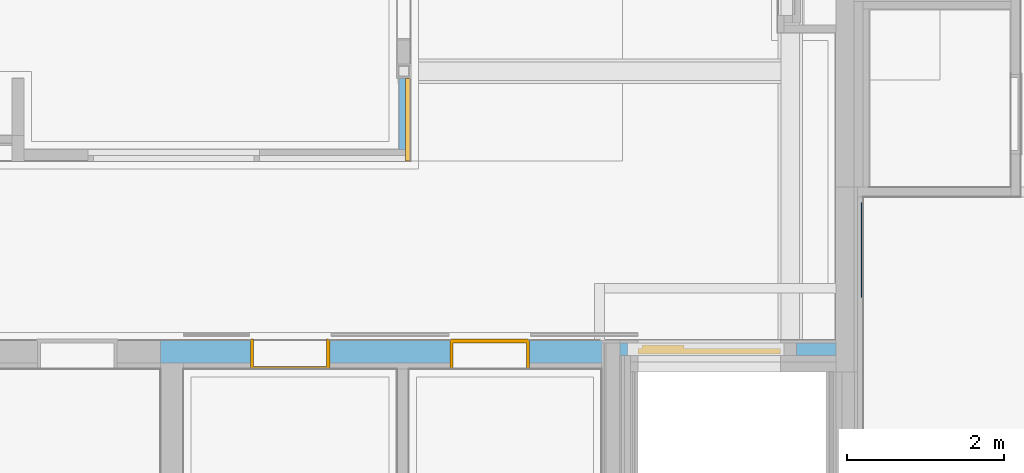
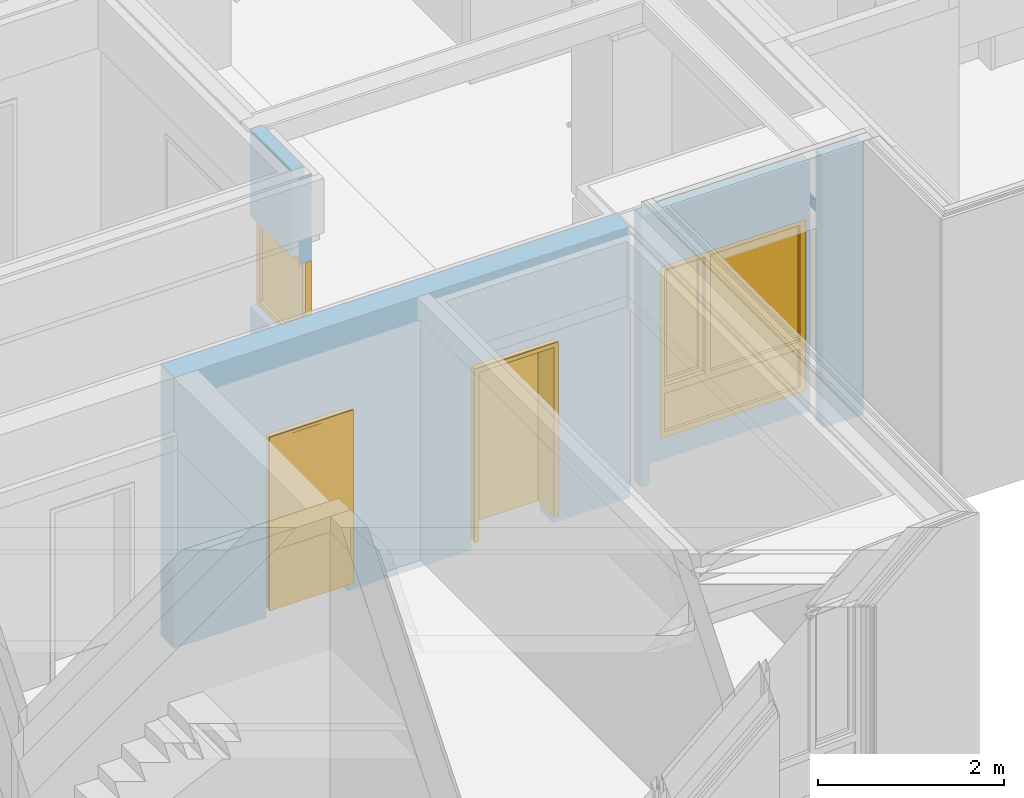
# One storey, part 112 of 222: 2 doors, 2 windows, 1 wall, 4 openings, plus 3 elements that do not belong to this part.
"""IFC4 building model written with IfcOpenShell, lengths in metres."""

import ifcopenshell
import ifcopenshell.guid

model = None  # the IFC model being written
_history = None  # IfcOwnerHistory: only IFC2X3 demands one
_inside = {}  # id of a spatial element -> (the spatial element, [elements in it])
_under = {}  # id of a project, library or spatial element -> (it, [spatial elements below it])
_declared = {}  # id of a project -> (the project, [libraries it declares])
_typed = {}  # id of a type object -> (the type object, [elements of that type])
_made_of = {}  # id of a material, layer set ... -> (it, [elements and type objects made of it])


def new_model(schema):
    """Start an empty IFC model of exactly this schema.

    Asked for "IFC4X3", IfcOpenShell would pick the latest addendum, in which some entities
    have other attributes; the version numbers below select the first issue.
    IFC2X3 requires an IfcOwnerHistory on every rooted entity: one is made here for all.
    """
    global model, _history
    if schema == "IFC4X3":
        model = ifcopenshell.file(schema_version=(4, 3, 0, 0))
    else:
        model = ifcopenshell.file(schema=schema)
    _inside.clear()
    _under.clear()
    _declared.clear()
    _typed.clear()
    _made_of.clear()
    _history = None
    if model.schema == "IFC2X3":
        org = make("IfcOrganization", Name="unknown")
        user = make(
            "IfcPersonAndOrganization",
            ThePerson=make("IfcPerson", FamilyName="unknown"),
            TheOrganization=org,
        )
        app = make(
            "IfcApplication",
            ApplicationDeveloper=org,
            Version="unknown",
            ApplicationFullName="unknown",
            ApplicationIdentifier="unknown",
        )
        _history = make(
            "IfcOwnerHistory",
            OwningUser=user,
            OwningApplication=app,
            ChangeAction="ADDED",
            CreationDate=0,
        )
    return model


def make(cls, **values):
    """One entity of the class cls with the attributes given. An attribute that is None is left unset."""
    return model.create_entity(
        cls, **{name: value for name, value in values.items() if value is not None}
    )


def entity(cls, *values):
    """Any entity or typed value of the class cls, its attributes in the order of the schema. None: left unset."""
    e = model.create_entity(cls)
    for i, value in enumerate(values):
        if value is not None:
            e[i] = value
    return e


def rooted(cls, **values):
    """An entity with a GlobalId (a new one), such as an element, a storey or a relation."""
    return make(cls, GlobalId=ifcopenshell.guid.new(), OwnerHistory=_history, **values)


def si_unit(unit_type, name, prefix=None):
    """IfcSIUnit, for example si_unit("LENGTHUNIT", "METRE", prefix="MILLI")."""
    return make("IfcSIUnit", UnitType=unit_type, Prefix=prefix, Name=name)


def converted_unit(unit_type, name, factor, base, dimensions=None, offset=None):
    """IfcConversionBasedUnit, such as the inch: factor (a typed value) times the base unit."""
    return make(
        "IfcConversionBasedUnit"
        if offset is None
        else "IfcConversionBasedUnitWithOffset",
        ConversionOffset=offset,
        Dimensions=None
        if dimensions is None
        else entity("IfcDimensionalExponents", *dimensions),
        UnitType=unit_type,
        Name=name,
        ConversionFactor=make(
            "IfcMeasureWithUnit", ValueComponent=factor, UnitComponent=base
        ),
    )


def derived_unit(unit_type, elements):
    """IfcDerivedUnit: a product of units, each with its exponent."""
    return make(
        "IfcDerivedUnit",
        Elements=[
            make("IfcDerivedUnitElement", Unit=unit, Exponent=power)
            for unit, power in elements
        ],
        UnitType=unit_type,
    )


def assignment(units):
    """IfcUnitAssignment: the units of a project."""
    return None if units is None else make("IfcUnitAssignment", Units=units)


def point(xyz):
    """IfcCartesianPoint."""
    return None if xyz is None else make("IfcCartesianPoint", Coordinates=xyz)


def direction(xyz):
    """IfcDirection."""
    return None if xyz is None else make("IfcDirection", DirectionRatios=xyz)


def frame(location, z_axis=None, x_axis=None):
    """IfcAxis2Placement3D, a coordinate frame: its origin and axes. An axis left out is left unset."""
    return make(
        "IfcAxis2Placement3D",
        Location=point(location),
        Axis=direction(z_axis),
        RefDirection=direction(x_axis),
    )


def frame_2d(location, x_axis=None):
    """IfcAxis2Placement2D, a coordinate frame in the plane: its origin and x axis."""
    return make(
        "IfcAxis2Placement2D", Location=point(location), RefDirection=direction(x_axis)
    )


def origin():
    """The frame at (0, 0, 0) with its axes left unset."""
    return frame((0.0, 0.0, 0.0))


def origin_with_axes():
    """The frame at (0, 0, 0) with the z axis (0, 0, 1) and the x axis (1, 0, 0) written out."""
    return frame((0.0, 0.0, 0.0), z_axis=(0.0, 0.0, 1.0), x_axis=(1.0, 0.0, 0.0))


def place(relative_to, where):
    """IfcLocalPlacement: puts the frame where relative to a parent placement (None: the world)."""
    return make(
        "IfcLocalPlacement", PlacementRelTo=relative_to, RelativePlacement=where
    )


def context(
    kind, dimensions, precision=None, world=None, true_north=None, identifier=None
):
    """IfcGeometricRepresentationContext, for example the 3D "Model" context."""
    return make(
        "IfcGeometricRepresentationContext",
        ContextIdentifier=identifier,
        ContextType=kind,
        CoordinateSpaceDimension=dimensions,
        Precision=precision,
        WorldCoordinateSystem=world,
        TrueNorth=true_north,
    )


def subcontext(parent, identifier, kind, view, scale=None):
    """IfcGeometricRepresentationSubContext, for example "Body" below "Model"."""
    return make(
        "IfcGeometricRepresentationSubContext",
        ContextIdentifier=identifier,
        ContextType=kind,
        ParentContext=parent,
        TargetScale=scale,
        TargetView=view,
    )


def project(units=None, contexts=None):
    """IfcProject with its units and contexts."""
    return rooted(
        "IfcProject",
        Name="project",
        RepresentationContexts=contexts,
        UnitsInContext=assignment(units),
    )


def spatial(cls, under=None, at=None, **own):
    """A site, building, storey or space (cls), placed at a placement, below another one or the project."""
    s = rooted(cls, ObjectPlacement=at, **own)
    if under is not None:
        _under.setdefault(under.id(), (under, []))[1].append(s)
    return s


def polyline(points):
    """IfcPolyline through the points."""
    return make("IfcPolyline", Points=[point(p) for p in points])


def profile(cls, at=None, kind="AREA", **sizes):
    """A parametric profile (cls). Its sizes go by their IFC names, for example OverallWidth=200.0."""
    return make(cls, ProfileType=kind, Position=at, **sizes)


def rectangle(**sizes):
    """IfcRectangleProfileDef."""
    return profile("IfcRectangleProfileDef", **sizes)


def outline(outer, holes=None, kind="AREA"):
    """IfcArbitraryClosedProfileDef: a profile drawn as a closed curve; with holes, ...WithVoids."""
    if holes is None:
        return make("IfcArbitraryClosedProfileDef", ProfileType=kind, OuterCurve=outer)
    return make(
        "IfcArbitraryProfileDefWithVoids",
        ProfileType=kind,
        OuterCurve=outer,
        InnerCurves=holes,
    )


def extrude(swept, where, along, depth):
    """IfcExtrudedAreaSolid: the profile swept, set in the frame where, extruded along a direction by depth."""
    return make(
        "IfcExtrudedAreaSolid",
        SweptArea=swept,
        Position=where,
        ExtrudedDirection=direction(along),
        Depth=depth,
    )


def clip(a, b, op="DIFFERENCE"):
    """IfcBooleanClippingResult: the solid a cut by the half space b."""
    return make(
        "IfcBooleanClippingResult", Operator=op, FirstOperand=a, SecondOperand=b
    )


def bounded_halfspace(plane, agree, where, boundary):
    """IfcPolygonalBoundedHalfSpace: a half space limited to a polygon's prism."""
    return make(
        "IfcPolygonalBoundedHalfSpace",
        BaseSurface=make("IfcPlane", Position=plane),
        AgreementFlag=agree,
        Position=where,
        PolygonalBoundary=boundary,
    )


def faces_of(points, faces, orient=None, outer=None):
    """IfcFace entities. A face is a list of loops; a loop is a list of indices into points, from 0.

    orient and outer hold one flag for each loop. By default every Orientation is true, the
    first loop of a face is its IfcFaceOuterBound and the others are IfcFaceBound.
    """
    made = []
    for i, loops in enumerate(faces):
        bounds = []
        for j, loop in enumerate(loops):
            is_outer = j == 0 if outer is None else outer[i][j]
            bounds.append(
                make(
                    "IfcFaceOuterBound" if is_outer else "IfcFaceBound",
                    Bound=make("IfcPolyLoop", Polygon=[points[k] for k in loop]),
                    Orientation=True if orient is None else orient[i][j],
                )
            )
        made.append(make("IfcFace", Bounds=bounds))
    return made


def closed_shell(faces, orient=None, outer=None):
    """The faces of one IfcClosedShell. faceted_brep and surface_model build it on their shared points."""
    return ("IfcClosedShell", faces, orient, outer)


def open_shell(faces, orient=None, outer=None):
    """The faces of one IfcOpenShell. surface_model builds it on its shared points."""
    return ("IfcOpenShell", faces, orient, outer)


def faceted_brep(points, faces, orient=None, outer=None, voids=None):
    """IfcFacetedBrep: a solid bounded by flat faces; with voids (closed shells), ...WithVoids."""
    shared = [point(p) for p in points]
    hull = make("IfcClosedShell", CfsFaces=faces_of(shared, faces, orient, outer))
    if voids is None:
        return make("IfcFacetedBrep", Outer=hull)
    return make(
        "IfcFacetedBrepWithVoids",
        Outer=hull,
        Voids=[
            make(cls, CfsFaces=faces_of(shared, fs, o, b)) for cls, fs, o, b in voids
        ],
    )


def surface_model(cls, points, shells):
    """IfcFaceBasedSurfaceModel or IfcShellBasedSurfaceModel (cls): surfaces that need not close."""
    shared = [point(p) for p in points]
    made = [make(c, CfsFaces=faces_of(shared, fs, o, b)) for c, fs, o, b in shells]
    if cls == "IfcFaceBasedSurfaceModel":
        return make(cls, FbsmFaces=made)
    return make(cls, SbsmBoundary=made)


def shape(context_of_items, identifier, shape_type, items):
    """IfcShapeRepresentation: the items that make up one representation, for example the "Body"."""
    return make(
        "IfcShapeRepresentation",
        ContextOfItems=context_of_items,
        RepresentationIdentifier=identifier,
        RepresentationType=shape_type,
        Items=items,
    )


def source(mapping_origin, context_of_items, identifier, shape_type, items):
    """IfcRepresentationMap: a shape defined once, which mapped items show again and again."""
    return make(
        "IfcRepresentationMap",
        MappingOrigin=mapping_origin,
        MappedRepresentation=shape(context_of_items, identifier, shape_type, items),
    )


def transform(
    local_origin,
    x_axis=None,
    y_axis=None,
    z_axis=None,
    scale=None,
    scale2=None,
    scale3=None,
    uniform=True,
):
    """IfcCartesianTransformationOperator3D, or its non-uniform kind. x_axis, y_axis, z_axis: its Axis1, 2, 3."""
    if uniform:
        return make(
            "IfcCartesianTransformationOperator3D",
            Axis1=direction(x_axis),
            Axis2=direction(y_axis),
            LocalOrigin=point(local_origin),
            Scale=scale,
            Axis3=direction(z_axis),
        )
    return make(
        "IfcCartesianTransformationOperator3DnonUniform",
        Axis1=direction(x_axis),
        Axis2=direction(y_axis),
        LocalOrigin=point(local_origin),
        Scale=scale,
        Axis3=direction(z_axis),
        Scale2=scale2,
        Scale3=scale3,
    )


def mapped(mapping_source, mapping_target):
    """IfcMappedItem: shows the shape of a source again, moved by a transform."""
    return make(
        "IfcMappedItem", MappingSource=mapping_source, MappingTarget=mapping_target
    )


def material(Name=None, Category=None):
    """IfcMaterial."""
    return make("IfcMaterial", Name=Name, Category=Category)


def made_of(thing, what):
    """Note that an element or type object is made of a material, layer set ...; save() writes the relation."""
    if what is not None:
        _made_of.setdefault(what.id(), (what, []))[1].append(thing)
    return thing


def type_object(cls, material=None, **own):
    """A type object (cls), such as IfcWallType, which elements share."""
    return made_of(rooted(cls, **own), material)


def element(
    cls,
    number,
    at=None,
    inside=None,
    cuts=None,
    type_object=None,
    material=None,
    context=None,
    identifier="Body",
    shape_type=None,
    held_by="IfcProductDefinitionShape",
    body=None,
    shapes=None,
    **own,
):
    """One element of the class cls, such as IfcWall. Its Tag is "e" and its number.

    at: its placement. inside: the storey or other place that contains it. cuts: it is an
    opening in that element (IfcRelVoidsElement). A single representation is given by context,
    identifier, shape_type and body (its items); several are given by shapes. held_by: the class
    of the entity that holds the representations. save() writes the other relations.
    """
    e = rooted(cls, Tag="e%d" % number, ObjectPlacement=at, **own)
    if body is not None:
        shapes = [shape(context, identifier, shape_type, body)]
    if shapes is not None:
        e.Representation = make(held_by, Representations=shapes)
    if inside is not None:
        _inside.setdefault(inside.id(), (inside, []))[1].append(e)
    if cuts is not None:
        rooted(
            "IfcRelVoidsElement", RelatingBuildingElement=cuts, RelatedOpeningElement=e
        )
    if type_object is not None:
        _typed.setdefault(type_object.id(), (type_object, []))[1].append(e)
    return made_of(e, material)


def fill(opening, filler):
    """IfcRelFillsElement: the door or window that sits in an opening."""
    return rooted(
        "IfcRelFillsElement",
        RelatingOpeningElement=opening,
        RelatedBuildingElement=filler,
    )


def aggregate(whole, parts):
    """IfcRelAggregates: a whole, such as a stair, and the parts it consists of."""
    return rooted("IfcRelAggregates", RelatingObject=whole, RelatedObjects=parts)


def save(model, path):
    """Write the relations noted so far, then the file.

    IfcRelAggregates (storeys below a building ...), IfcRelContainedInSpatialStructure (elements
    in a storey), IfcRelDefinesByType, IfcRelAssociatesMaterial and IfcRelDeclares: one each for
    every whole, place, type object, material and project.
    """
    for whole, parts in _under.values():
        aggregate(whole, parts)
    for where, things in _inside.values():
        rooted(
            "IfcRelContainedInSpatialStructure",
            RelatedElements=things,
            RelatingStructure=where,
        )
    for kind, things in _typed.values():
        rooted("IfcRelDefinesByType", RelatedObjects=things, RelatingType=kind)
    for what, things in _made_of.values():
        rooted("IfcRelAssociatesMaterial", RelatedObjects=things, RelatingMaterial=what)
    for by, libraries in _declared.values():
        rooted("IfcRelDeclares", RelatingContext=by, RelatedDefinitions=libraries)
    model.write(path)


model = new_model("IFC4")

# Units and contexts
model_context = context("Model", 3, precision=1e-05, world=origin())
body_context = subcontext(model_context, "Body", "Model", "MODEL_VIEW")
ifc_project = project(units=[si_unit("LENGTHUNIT", "METRE"), si_unit("AREAUNIT", "SQUARE_METRE"), si_unit("VOLUMEUNIT", "CUBIC_METRE"), si_unit("MASSUNIT", "GRAM", prefix="KILO"), converted_unit("PLANEANGLEUNIT", "DEGREE", entity("IfcPlaneAngleMeasure", 0.0174532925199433), si_unit("PLANEANGLEUNIT", "RADIAN"), dimensions=[0, 0, 0, 0, 0, 0, 0]), derived_unit("THERMALTRANSMITTANCEUNIT", [(si_unit("POWERUNIT", "WATT"), 1), (si_unit("THERMODYNAMICTEMPERATUREUNIT", "KELVIN"), -1), (si_unit("LENGTHUNIT", "METRE"), -2)]), derived_unit("VOLUMETRICFLOWRATEUNIT", [(si_unit("LENGTHUNIT", "METRE"), 3), (converted_unit("TIMEUNIT", "hour", entity("IfcTimeMeasure", 3600.0), si_unit("TIMEUNIT", "SECOND"), dimensions=[0, 0, 1, 0, 0, 0, 0]), -1), (si_unit("LENGTHUNIT", "METRE"), -1)])], contexts=[model_context])

# Site, building, storey
site_placement = place(None, origin())
site = spatial("IfcSite", under=ifc_project, at=site_placement, Name="Psychiatrie Neubau Wunstorf", CompositionType="ELEMENT")
building_placement = place(site_placement, origin())
building = spatial("IfcBuilding", under=site, at=building_placement, Name="Neubau H2 Stationsgebäude", CompositionType="ELEMENT")
storey_placement = place(building_placement, frame((0.0, 0.0, 3.6)))
storey = spatial("IfcBuildingStorey", under=building, at=storey_placement, Name="H2 Ebene +1", CompositionType="ELEMENT", Elevation=3.6)

# Wall, opening, window
ifc_material_1 = material(Name="WA-HD")
wall_1_placement = place(storey_placement, frame((70.8355, 0.500002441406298, 0.0), z_axis=(0.0, 0.0, 1.0), x_axis=(-1.0, 3.30966048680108e-16, 0.0)))
wall_1 = element("IfcWall", 1, at=wall_1_placement, inside=storey, material=ifc_material_1, context=body_context, shape_type="Clipping", body=[
    clip(extrude(rectangle(XDim=2.0875, YDim=0.16, at=frame_2d((1.04375, 0.08), x_axis=(1.0, 4.2014851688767e-18))), frame((0.660499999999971, 0.0, 0.0), z_axis=(0.0, 0.0, 1.0), x_axis=(1.0, 0.0, 0.0)), (0.0, 0.0, 1.0), 3.55), bounded_halfspace(frame((1.656249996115, 0.0800006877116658, 0.28), z_axis=(-2.28344138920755e-16, -7.55741573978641e-32, 1.0), x_axis=(1.0, 1.69928576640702e-17, 2.28344138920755e-16)), True, origin_with_axes(), polyline([(0.660499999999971, 1.37542333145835e-06), (2.65199999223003, 1.37542333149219e-06), (2.65199999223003, 0.16), (0.660499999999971, 0.16), (0.660499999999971, 1.37542333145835e-06)]))),
    clip(extrude(rectangle(XDim=0.500499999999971, YDim=0.16, at=frame_2d((0.250249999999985, 0.08), x_axis=(1.0, 1.03819519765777e-16))), origin_with_axes(), (0.0, 0.0, 1.0), 3.55), bounded_halfspace(frame((1.656249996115, 0.0800006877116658, 0.28), z_axis=(-2.28344138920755e-16, -7.55741573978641e-32, 1.0), x_axis=(1.0, 1.69928576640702e-17, 2.28344138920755e-16)), True, origin_with_axes(), polyline([(0.660499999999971, 1.37542333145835e-06), (2.65199999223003, 1.37542333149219e-06), (2.65199999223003, 0.16), (0.660499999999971, 0.16), (0.660499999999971, 1.37542333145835e-06)]))),
])
opening_1_placement = place(wall_1_placement, frame((2.52099999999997, 0.16, 0.55), z_axis=(0.0, -1.0, 0.0), x_axis=(0.0, 0.0, 1.0)))
opening_1 = element("IfcOpeningElement", 2, at=opening_1_placement, cuts=wall_1, Name="Fensteröffnung", ObjectType="Opening", context=body_context, shape_type="SweptSolid", body=[
    extrude(outline(polyline([(2.26, 1.8145), (2.26, 0.0), (0.0, 0.0), (0.0, 1.8145), (2.26, 1.8145)])), origin_with_axes(), (0.0, 0.0, 1.0), 0.16),
])
shared_shape_1 = source(origin_with_axes(), body_context, "Body", "SurfaceModel", [
    surface_model("IfcShellBasedSurfaceModel", [(1.8145, 0.0, 2.26), (1.8145, 0.0, 0.0), (1.74449999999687, 0.0, 0.0), (1.74449999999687, 0.0, 2.26), (1.8145, 0.0700000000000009, 0.0), (1.8145, 0.0700000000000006, 2.26), (1.74449999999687, 0.0700000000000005, 2.26), (1.74449999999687, 0.0700000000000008, 0.0)], [closed_shell([[[0, 1, 2, 3]], [[4, 5, 6, 7]], [[1, 0, 5, 4]], [[2, 1, 4, 7]], [[3, 2, 7, 6]], [[0, 3, 6, 5]]], orient=[[False], [False], [False], [False], [False], [False]])]),
    surface_model("IfcShellBasedSurfaceModel", [(0.0700000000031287, 0.0, 2.26), (0.0700000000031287, 0.0, 0.0), (0.0, 0.0, 0.0), (0.0, 0.0, 2.26), (0.0700000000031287, 0.0700000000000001, 0.0), (0.0700000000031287, 0.0699999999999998, 2.26), (0.0, 0.0699999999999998, 2.26), (0.0, 0.0700000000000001, 0.0)], [closed_shell([[[0, 1, 2, 3]], [[4, 5, 6, 7]], [[1, 0, 5, 4]], [[2, 1, 4, 7]], [[3, 2, 7, 6]], [[0, 3, 6, 5]]], orient=[[False], [False], [False], [False], [False], [False]])]),
    surface_model("IfcShellBasedSurfaceModel", [(1.74449999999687, 0.0, 0.07), (1.74449999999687, 0.0, 0.0), (0.0700000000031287, 0.0, 0.0), (0.0700000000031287, 0.0, 0.07), (1.74449999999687, 0.0700000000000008, 0.0), (1.74449999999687, 0.0700000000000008, 0.07), (0.0700000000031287, 0.0700000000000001, 0.07), (0.0700000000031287, 0.0700000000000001, 0.0)], [closed_shell([[[0, 1, 2, 3]], [[4, 5, 6, 7]], [[1, 0, 5, 4]], [[2, 1, 4, 7]], [[3, 2, 7, 6]], [[0, 3, 6, 5]]], orient=[[False], [False], [False], [False], [False], [False]])]),
    surface_model("IfcShellBasedSurfaceModel", [(1.74449999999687, 0.0, 2.26), (1.74449999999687, 0.0, 2.19), (0.0700000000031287, 0.0, 2.19), (0.0700000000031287, 0.0, 2.26), (1.74449999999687, 0.0700000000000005, 2.19), (1.74449999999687, 0.0700000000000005, 2.26), (0.0700000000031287, 0.0699999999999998, 2.26), (0.0700000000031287, 0.0699999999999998, 2.19)], [closed_shell([[[0, 1, 2, 3]], [[4, 5, 6, 7]], [[1, 0, 5, 4]], [[2, 1, 4, 7]], [[3, 2, 7, 6]], [[0, 3, 6, 5]]], orient=[[False], [False], [False], [False], [False], [False]])]),
    surface_model("IfcShellBasedSurfaceModel", [(1.74449999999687, 0.0, 0.67), (1.74449999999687, 0.0, 0.57), (0.0700000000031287, 0.0, 0.57), (0.0700000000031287, 0.0, 0.67), (1.74449999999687, 0.0700000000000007, 0.57), (1.74449999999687, 0.0700000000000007, 0.67), (0.0700000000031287, 0.0700000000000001, 0.67), (0.0700000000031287, 0.0700000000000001, 0.57)], [closed_shell([[[0, 1, 2, 3]], [[4, 5, 6, 7]], [[1, 0, 5, 4]], [[2, 1, 4, 7]], [[3, 2, 7, 6]], [[0, 3, 6, 5]]], orient=[[False], [False], [False], [False], [False], [False]])]),
    surface_model("IfcShellBasedSurfaceModel", [(1.74449999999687, 0.0350000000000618, 0.07), (0.0700000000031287, 0.0350000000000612, 0.07), (0.0700000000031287, 0.0350000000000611, 0.57), (1.74449999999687, 0.0350000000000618, 0.57)], [open_shell([[[0, 1, 2, 3]]], orient=[[False]])]),
    surface_model("IfcShellBasedSurfaceModel", [(1.24449999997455, 0.0, 2.19), (1.24449999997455, 0.0, 0.67), (1.17449999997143, 0.0, 0.67), (1.17449999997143, 0.0, 2.19), (1.24449999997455, 0.0700000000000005, 0.67), (1.24449999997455, 0.0700000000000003, 2.19), (1.17449999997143, 0.0700000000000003, 2.19), (1.17449999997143, 0.0700000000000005, 0.67)], [closed_shell([[[0, 1, 2, 3]], [[4, 5, 6, 7]], [[1, 0, 5, 4]], [[2, 1, 4, 7]], [[3, 2, 7, 6]], [[0, 3, 6, 5]]], orient=[[False], [False], [False], [False], [False], [False]])]),
    surface_model("IfcShellBasedSurfaceModel", [(1.76449999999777, -0.0499999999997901, 2.21), (1.76449999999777, -0.04999999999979, 0.65), (1.69449999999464, -0.04999999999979, 0.65), (1.69449999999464, -0.0499999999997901, 2.21), (1.76449999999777, 0.0200000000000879, 0.65), (1.76449999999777, 0.0200000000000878, 2.21), (1.69449999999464, 0.0200000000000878, 2.21), (1.69449999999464, 0.0200000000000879, 0.65)], [closed_shell([[[0, 1, 2, 3]], [[4, 5, 6, 7]], [[1, 0, 5, 4]], [[2, 1, 4, 7]], [[3, 2, 7, 6]], [[0, 3, 6, 5]]], orient=[[False], [False], [False], [False], [False], [False]])]),
    surface_model("IfcShellBasedSurfaceModel", [(1.29449999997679, -0.0499999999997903, 2.21), (1.29449999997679, -0.0499999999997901, 0.65), (1.22449999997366, -0.0499999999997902, 0.65), (1.22449999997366, -0.0499999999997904, 2.21), (1.29449999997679, 0.0200000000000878, 0.65), (1.29449999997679, 0.0200000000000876, 2.21), (1.22449999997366, 0.0200000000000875, 2.21), (1.22449999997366, 0.0200000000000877, 0.65)], [closed_shell([[[0, 1, 2, 3]], [[4, 5, 6, 7]], [[1, 0, 5, 4]], [[2, 1, 4, 7]], [[3, 2, 7, 6]], [[0, 3, 6, 5]]], orient=[[False], [False], [False], [False], [False], [False]])]),
    surface_model("IfcShellBasedSurfaceModel", [(1.69449999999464, -0.04999999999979, 0.72), (1.69449999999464, -0.04999999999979, 0.65), (1.29449999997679, -0.0499999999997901, 0.65), (1.29449999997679, -0.0499999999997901, 0.72), (1.69449999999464, 0.0200000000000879, 0.65), (1.69449999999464, 0.0200000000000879, 0.72), (1.29449999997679, 0.0200000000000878, 0.72), (1.29449999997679, 0.0200000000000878, 0.65)], [closed_shell([[[0, 1, 2, 3]], [[4, 5, 6, 7]], [[1, 0, 5, 4]], [[2, 1, 4, 7]], [[3, 2, 7, 6]], [[0, 3, 6, 5]]], orient=[[False], [False], [False], [False], [False], [False]])]),
    surface_model("IfcShellBasedSurfaceModel", [(1.69449999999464, -0.0499999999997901, 2.21), (1.69449999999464, -0.0499999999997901, 2.14), (1.29449999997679, -0.0499999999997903, 2.14), (1.29449999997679, -0.0499999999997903, 2.21), (1.69449999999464, 0.0200000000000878, 2.14), (1.69449999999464, 0.0200000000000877, 2.21), (1.29449999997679, 0.0200000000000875, 2.21), (1.29449999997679, 0.0200000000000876, 2.14)], [closed_shell([[[0, 1, 2, 3]], [[4, 5, 6, 7]], [[1, 0, 5, 4]], [[2, 1, 4, 7]], [[3, 2, 7, 6]], [[0, 3, 6, 5]]], orient=[[False], [False], [False], [False], [False], [False]])]),
    surface_model("IfcShellBasedSurfaceModel", [(1.17449999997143, 0.0350000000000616, 0.67), (0.0700000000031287, 0.0350000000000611, 0.67), (0.0700000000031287, 0.0350000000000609, 2.19), (1.17449999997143, 0.0350000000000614, 2.19)], [open_shell([[[0, 1, 2, 3]]], orient=[[False]])]),
    surface_model("IfcShellBasedSurfaceModel", [(1.69449999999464, -0.014999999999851, 0.72), (1.29449999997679, -0.0149999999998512, 0.72), (1.29449999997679, -0.0149999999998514, 2.14), (1.69449999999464, -0.0149999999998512, 2.14)], [open_shell([[[0, 1, 2, 3]]], orient=[[False]])]),
])
window_1_placement = place(opening_1_placement, frame((0.0, 1.8145, 0.0889999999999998), z_axis=(1.0, 0.0, 0.0), x_axis=(0.0, -1.0, 9.19527469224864e-17)))
window_1 = element("IfcWindow", 3, at=window_1_placement, inside=storey, Name="Fenster", OverallHeight=2.26, OverallWidth=1.8145, PartitioningType="USERDEFINED", PredefinedType="WINDOW", context=body_context, shape_type="MappedRepresentation", body=[
    mapped(shared_shape_1, transform((0.0, 0.0, 0.0), x_axis=(1.0, 0.0, 0.0), y_axis=(0.0, 1.0, 0.0), z_axis=(0.0, 0.0, 1.0), scale=1.0)),
])
fill(opening_1, window_1)

# Wall
wall_2_placement = place(storey_placement, frame((71.161, 1.08720000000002, 1.575)))
element("IfcWall", 4, at=wall_2_placement, inside=storey, Name="WV 1.1", context=body_context, shape_type="Brep", body=[
    faceted_brep([(0.025, 1.2, 0.0), (0.0, 1.2, 0.0), (0.0, 0.0, 0.0), (0.025, 0.0, 0.0), (0.0, 1.2, 0.15), (0.025, 1.2, 0.15), (0.025, 0.0, 0.15), (0.0, 0.0, 0.15)], [[[0, 1, 2, 3]], [[4, 5, 6, 7]], [[1, 0, 5, 4]], [[2, 1, 4, 7]], [[3, 2, 7, 6]], [[0, 3, 6, 5]]], orient=[[False], [False], [False], [False], [False], [False]]),
])

# Wall, opening, window
ifc_material_2 = material(Name="WI-LB")
wall_3_placement = place(storey_placement, frame((65.4249963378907, 2.81750130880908, 0.0), z_axis=(0.0, 0.0, 1.0), x_axis=(0.0, 1.0, 0.0)))
wall_3 = element("IfcWall", 5, at=wall_3_placement, inside=storey, material=ifc_material_2, context=body_context, shape_type="SweptSolid", body=[
    extrude(rectangle(XDim=0.902372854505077, YDim=0.15, at=frame_2d((0.451186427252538, 0.075), x_axis=(1.0, 0.0))), frame((0.150122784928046, 0.0, 0.0), z_axis=(0.0, 0.0, 1.0), x_axis=(1.0, 0.0, 0.0)), (0.0, 0.0, 1.0), 3.55),
    extrude(outline(polyline([(0.000122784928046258, -0.15), (0.000122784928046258, 0.0), (4.90573817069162e-06, 0.0), (0.0, -0.15), (0.000122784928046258, -0.15)])), frame((0.0, 0.15, 0.0), z_axis=(0.0, 0.0, 1.0), x_axis=(1.0, 0.0, 0.0)), (0.0, 0.0, 1.0), 3.55),
])
opening_2_placement = place(wall_3_placement, frame((1.05249563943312, 0.15, 1.23), z_axis=(0.0, -1.0, 0.0), x_axis=(0.0, 0.0, 1.0)))
opening_2 = element("IfcOpeningElement", 6, at=opening_2_placement, cuts=wall_3, Name="Fensteröffnung", ObjectType="Opening", context=body_context, shape_type="SweptSolid", body=[
    extrude(outline(polyline([(1.18, 1.05249073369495), (1.18, 0.0), (0.0, 0.0), (0.0, 1.05249073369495), (1.18, 1.05249073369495)])), origin_with_axes(), (0.0, 0.0, 1.0), 0.15),
])
shared_shape_2 = source(origin_with_axes(), body_context, "Body", "SurfaceModel", [
    surface_model("IfcShellBasedSurfaceModel", [(0.0, 0.0, 1.18), (0.0700000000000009, 0.0, 1.18), (0.0700000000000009, 0.0, 0.0), (0.0, 0.0, 0.0), (0.0, 0.0699999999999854, 0.0), (0.0700000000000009, 0.0699999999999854, 0.0), (0.0700000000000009, 0.0699999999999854, 1.18), (0.0, 0.0699999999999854, 1.18)], [closed_shell([[[0, 1, 2, 3]], [[4, 5, 6, 7]], [[3, 4, 7, 0]], [[2, 5, 4, 3]], [[1, 6, 5, 2]], [[0, 7, 6, 1]]], orient=[[False], [False], [False], [False], [False], [False]])]),
    surface_model("IfcShellBasedSurfaceModel", [(0.982497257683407, 0.0, 1.18), (1.05249725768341, 0.0, 1.18), (1.05249725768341, 0.0, 0.0), (0.982497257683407, 0.0, 0.0), (0.982497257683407, 0.0699999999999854, 0.0), (1.05249725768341, 0.0699999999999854, 0.0), (1.05249725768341, 0.0699999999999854, 1.18), (0.982497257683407, 0.0699999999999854, 1.18)], [closed_shell([[[0, 1, 2, 3]], [[4, 5, 6, 7]], [[3, 4, 7, 0]], [[2, 5, 4, 3]], [[1, 6, 5, 2]], [[0, 7, 6, 1]]], orient=[[False], [False], [False], [False], [False], [False]])]),
    surface_model("IfcShellBasedSurfaceModel", [(0.0700000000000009, 0.0, 0.07), (0.982497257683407, 0.0, 0.07), (0.982497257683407, 0.0, 0.0), (0.0700000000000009, 0.0, 0.0), (0.0700000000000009, 0.0699999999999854, 0.0), (0.982497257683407, 0.0699999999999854, 0.0), (0.982497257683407, 0.0699999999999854, 0.07), (0.0700000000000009, 0.0699999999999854, 0.07)], [closed_shell([[[0, 1, 2, 3]], [[4, 5, 6, 7]], [[3, 4, 7, 0]], [[2, 5, 4, 3]], [[1, 6, 5, 2]], [[0, 7, 6, 1]]], orient=[[False], [False], [False], [False], [False], [False]])]),
    surface_model("IfcShellBasedSurfaceModel", [(0.0700000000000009, 0.0, 1.18), (0.982497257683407, 0.0, 1.18), (0.982497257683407, 0.0, 1.11), (0.0700000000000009, 0.0, 1.11), (0.0700000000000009, 0.0699999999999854, 1.11), (0.982497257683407, 0.0699999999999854, 1.11), (0.982497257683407, 0.0699999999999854, 1.18), (0.0700000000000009, 0.0699999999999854, 1.18)], [closed_shell([[[0, 1, 2, 3]], [[4, 5, 6, 7]], [[3, 4, 7, 0]], [[2, 5, 4, 3]], [[1, 6, 5, 2]], [[0, 7, 6, 1]]], orient=[[False], [False], [False], [False], [False], [False]])]),
    surface_model("IfcShellBasedSurfaceModel", [(0.0700000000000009, 0.0349999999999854, 0.07), (0.0700000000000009, 0.0349999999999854, 1.11), (0.982497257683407, 0.0349999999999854, 1.11), (0.982497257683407, 0.0349999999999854, 0.07)], [open_shell([[[0, 1, 2, 3]]], orient=[[False]])]),
])
window_2_placement = place(opening_2_placement, frame((0.0, 0.0, 0.08), z_axis=(1.0, 0.0, 0.0), x_axis=(0.0, 1.0, 0.0)))
window_2 = element("IfcWindow", 7, at=window_2_placement, inside=storey, Name="Fenster", OverallHeight=1.18, OverallWidth=1.0525, PartitioningType="USERDEFINED", PredefinedType="WINDOW", context=body_context, shape_type="MappedRepresentation", body=[
    mapped(shared_shape_2, transform((0.0, 0.0, 0.0), x_axis=(1.0, 0.0, 0.0), y_axis=(0.0, 1.0, 0.0), z_axis=(0.0, 0.0, 1.0), scale=1.0)),
])
fill(opening_2, window_2)

# Wall, openings, doors
ifc_material_3 = material(Name="WI-HW 60")
wall_4_placement = place(storey_placement, frame((67.8885, 0.536002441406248, 0.0), z_axis=(0.0, 0.0, 1.0), x_axis=(-1.0, 4.22649619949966e-16, 0.0)))
wall_4 = element("IfcWall", 8, at=wall_4_placement, inside=storey, material=ifc_material_3, context=body_context, shape_type="SweptSolid", body=[
    extrude(rectangle(XDim=5.64870635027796, YDim=0.289999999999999, at=frame_2d((2.82435317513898, 0.144999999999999), x_axis=(1.0, 0.0))), origin_with_axes(), (0.0, 0.0, 1.0), 3.55),
])
opening_3_placement = place(wall_4_placement, frame((3.49427442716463, 0.0, 0.0), z_axis=(0.0, 1.0, 0.0), x_axis=(0.0, 0.0, 1.0)))
opening_3 = element("IfcOpeningElement", 9, at=opening_3_placement, cuts=wall_4, Name="Türöffnung", ObjectType="Opening", context=body_context, shape_type="SweptSolid", body=[
    extrude(outline(polyline([(2.41, 1.01), (2.41, 0.0), (0.0, 0.0), (0.0, 1.01), (2.41, 1.01)])), origin_with_axes(), (0.0, 0.0, 1.0), 0.29),
])
opening_4_placement = place(wall_4_placement, frame((1.96349999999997, 0.289999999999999, 0.0), z_axis=(7.840471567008e-16, -1.0, 0.0), x_axis=(0.0, 0.0, 1.0)))
opening_4 = element("IfcOpeningElement", 10, at=opening_4_placement, cuts=wall_4, Name="Türöffnung", ObjectType="Opening", context=body_context, shape_type="SweptSolid", body=[
    extrude(outline(polyline([(2.41, 1.01), (2.41, 0.0), (0.0, 0.0), (0.0, 1.01), (2.41, 1.01)])), origin_with_axes(), (0.0, 0.0, 1.0), 0.29),
])
ifc_material_4 = material(Name="TI-1F-UZ-D")
door_type_1 = type_object("IfcDoorType", Name="SMT", OperationType="SINGLE_SWING_RIGHT", ParameterTakesPrecedence=False, PredefinedType="DOOR")
shared_shape_3 = source(origin_with_axes(), body_context, "Body", "Brep", [
    faceted_brep([(0.0, -0.0150000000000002, 2.41), (0.04, -0.0150000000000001, 2.41), (0.04, -0.0149999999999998, 0.15), (0.0, -0.0149999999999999, 0.15), (0.0, 0.38, 0.15), (0.04, 0.38, 0.15), (0.04, 0.38, 2.41), (0.0, 0.38, 2.41)], [[[0, 1, 2, 3]], [[4, 5, 6, 7]], [[3, 4, 7, 0]], [[2, 5, 4, 3]], [[1, 6, 5, 2]], [[0, 7, 6, 1]]], orient=[[False], [False], [False], [False], [False], [False]]),
    faceted_brep([(0.0, -0.0150000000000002, 2.425), (0.0, -0.0149999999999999, 0.15), (-0.015, -0.0149999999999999, 0.15), (-0.015, -0.0150000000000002, 2.425), (0.0, 0.0, 0.15), (0.0, 0.0, 2.425), (-0.015, 0.0, 2.425), (-0.015, 0.0, 0.15)], [[[0, 1, 2, 3]], [[4, 5, 6, 7]], [[1, 0, 5, 4]], [[2, 1, 4, 7]], [[3, 2, 7, 6]], [[0, 3, 6, 5]]], orient=[[False], [False], [False], [False], [False], [False]]),
    faceted_brep([(0.0, 0.365, 2.425), (0.0, 0.365, 0.15), (-0.015, 0.365, 0.15), (-0.015, 0.365, 2.425), (0.0, 0.38, 0.15), (0.0, 0.38, 2.425), (-0.015, 0.38, 2.425), (-0.015, 0.38, 0.15)], [[[0, 1, 2, 3]], [[4, 5, 6, 7]], [[1, 0, 5, 4]], [[2, 1, 4, 7]], [[3, 2, 7, 6]], [[0, 3, 6, 5]]], orient=[[False], [False], [False], [False], [False], [False]]),
    faceted_brep([(0.97, -0.0150000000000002, 2.41), (1.01, -0.0150000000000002, 2.41), (1.01, -0.0149999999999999, 0.15), (0.97, -0.0149999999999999, 0.15), (0.97, 0.38, 0.15), (1.01, 0.38, 0.15), (1.01, 0.38, 2.41), (0.97, 0.38, 2.41)], [[[0, 1, 2, 3]], [[4, 5, 6, 7]], [[3, 4, 7, 0]], [[2, 5, 4, 3]], [[1, 6, 5, 2]], [[0, 7, 6, 1]]], orient=[[False], [False], [False], [False], [False], [False]]),
    faceted_brep([(1.01, -0.0150000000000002, 2.425), (1.025, -0.0150000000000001, 2.425), (1.025, -0.0149999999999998, 0.15), (1.01, -0.0149999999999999, 0.15), (1.01, 0.0, 0.15), (1.025, 0.0, 0.15), (1.025, 0.0, 2.425), (1.01, 0.0, 2.425)], [[[0, 1, 2, 3]], [[4, 5, 6, 7]], [[3, 4, 7, 0]], [[2, 5, 4, 3]], [[1, 6, 5, 2]], [[0, 7, 6, 1]]], orient=[[False], [False], [False], [False], [False], [False]]),
    faceted_brep([(1.01, 0.365, 2.425), (1.025, 0.365, 2.425), (1.025, 0.365, 0.15), (1.01, 0.365, 0.15), (1.01, 0.38, 0.15), (1.025, 0.38, 0.15), (1.025, 0.38, 2.425), (1.01, 0.38, 2.425)], [[[0, 1, 2, 3]], [[4, 5, 6, 7]], [[3, 4, 7, 0]], [[2, 5, 4, 3]], [[1, 6, 5, 2]], [[0, 7, 6, 1]]], orient=[[False], [False], [False], [False], [False], [False]]),
    faceted_brep([(0.04, -0.0150000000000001, 2.41), (0.97, -0.0150000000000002, 2.41), (0.97, -0.0150000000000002, 2.37), (0.04, -0.0150000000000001, 2.37), (0.04, 0.38, 2.37), (0.97, 0.38, 2.37), (0.97, 0.38, 2.41), (0.04, 0.38, 2.41)], [[[0, 1, 2, 3]], [[4, 5, 6, 7]], [[3, 4, 7, 0]], [[2, 5, 4, 3]], [[1, 6, 5, 2]], [[0, 7, 6, 1]]], orient=[[False], [False], [False], [False], [False], [False]]),
    faceted_brep([(0.0, -0.0150000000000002, 2.425), (1.01, -0.0150000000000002, 2.425), (1.01, -0.0150000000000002, 2.41), (0.0, -0.0150000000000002, 2.41), (0.0, 0.0, 2.41), (1.01, 0.0, 2.41), (1.01, 0.0, 2.425), (0.0, 0.0, 2.425)], [[[0, 1, 2, 3]], [[4, 5, 6, 7]], [[3, 4, 7, 0]], [[2, 5, 4, 3]], [[1, 6, 5, 2]], [[0, 7, 6, 1]]], orient=[[False], [False], [False], [False], [False], [False]]),
    faceted_brep([(0.0, 0.365, 2.425), (1.01, 0.365, 2.425), (1.01, 0.365, 2.41), (0.0, 0.365, 2.41), (0.0, 0.38, 2.41), (1.01, 0.38, 2.41), (1.01, 0.38, 2.425), (0.0, 0.38, 2.425)], [[[0, 1, 2, 3]], [[4, 5, 6, 7]], [[3, 4, 7, 0]], [[2, 5, 4, 3]], [[1, 6, 5, 2]], [[0, 7, 6, 1]]], orient=[[False], [False], [False], [False], [False], [False]]),
    faceted_brep([(0.025, 0.331, 2.385), (0.985, 0.331, 2.385), (0.985, 0.331, 0.15), (0.025, 0.331, 0.15), (0.025, 0.381, 0.15), (0.985, 0.381, 0.15), (0.985, 0.381, 2.385), (0.025, 0.381, 2.385)], [[[0, 1, 2, 3]], [[4, 5, 6, 7]], [[3, 4, 7, 0]], [[2, 5, 4, 3]], [[1, 6, 5, 2]], [[0, 7, 6, 1]]], orient=[[False], [False], [False], [False], [False], [False]]),
])
door_1_placement = place(opening_3_placement, frame((0.0, 0.0, 0.0), z_axis=(1.0, 0.0, 0.0), x_axis=(0.0, 1.0, 1.97527169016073e-16)))
door_1 = element("IfcDoor", 11, at=door_1_placement, inside=storey, type_object=door_type_1, material=ifc_material_4, Name="SMT", OverallHeight=2.41, OverallWidth=1.01, context=body_context, shape_type="MappedRepresentation", body=[
    mapped(shared_shape_3, transform((0.0, 0.0, 0.0), x_axis=(1.0, 0.0, 0.0), y_axis=(0.0, 1.0, 0.0), z_axis=(0.0, 0.0, 1.0), scale=1.0)),
])
fill(opening_3, door_1)
ifc_material_5 = material(Name="TI-1F-UZ-D")
door_type_2 = type_object("IfcDoorType", Name="SMT", OperationType="SINGLE_SWING_RIGHT", ParameterTakesPrecedence=False, PredefinedType="DOOR")
shared_shape_4 = source(origin_with_axes(), body_context, "Body", "Brep", [
    faceted_brep([(0.0, -0.0150000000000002, 2.41), (0.04, -0.0150000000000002, 2.41), (0.04, -0.0149999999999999, 0.15), (0.0, -0.0149999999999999, 0.15), (0.0, 0.38, 0.15), (0.04, 0.38, 0.15), (0.04, 0.38, 2.41), (0.0, 0.38, 2.41)], [[[0, 1, 2, 3]], [[4, 5, 6, 7]], [[3, 4, 7, 0]], [[2, 5, 4, 3]], [[1, 6, 5, 2]], [[0, 7, 6, 1]]], orient=[[False], [False], [False], [False], [False], [False]]),
    faceted_brep([(0.0, -0.0150000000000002, 2.425), (0.0, -0.0149999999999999, 0.15), (-0.015, -0.0149999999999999, 0.15), (-0.015, -0.0150000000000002, 2.425), (0.0, 0.0, 0.15), (0.0, 0.0, 2.425), (-0.015, 0.0, 2.425), (-0.015, 0.0, 0.15)], [[[0, 1, 2, 3]], [[4, 5, 6, 7]], [[1, 0, 5, 4]], [[2, 1, 4, 7]], [[3, 2, 7, 6]], [[0, 3, 6, 5]]], orient=[[False], [False], [False], [False], [False], [False]]),
    faceted_brep([(0.0, 0.365, 2.425), (0.0, 0.365, 0.15), (-0.015, 0.365, 0.15), (-0.015, 0.365, 2.425), (0.0, 0.38, 0.15), (0.0, 0.38, 2.425), (-0.015, 0.38, 2.425), (-0.015, 0.38, 0.15)], [[[0, 1, 2, 3]], [[4, 5, 6, 7]], [[1, 0, 5, 4]], [[2, 1, 4, 7]], [[3, 2, 7, 6]], [[0, 3, 6, 5]]], orient=[[False], [False], [False], [False], [False], [False]]),
    faceted_brep([(0.97, -0.0150000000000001, 2.41), (1.01, -0.0150000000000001, 2.41), (1.01, -0.0149999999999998, 0.15), (0.97, -0.0149999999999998, 0.15), (0.97, 0.38, 0.15), (1.01, 0.38, 0.15), (1.01, 0.38, 2.41), (0.97, 0.38, 2.41)], [[[0, 1, 2, 3]], [[4, 5, 6, 7]], [[3, 4, 7, 0]], [[2, 5, 4, 3]], [[1, 6, 5, 2]], [[0, 7, 6, 1]]], orient=[[False], [False], [False], [False], [False], [False]]),
    faceted_brep([(1.01, -0.0150000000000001, 2.425), (1.025, -0.015, 2.425), (1.025, -0.0149999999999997, 0.15), (1.01, -0.0149999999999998, 0.15), (1.01, 0.0, 0.15), (1.025, 0.0, 0.15), (1.025, 0.0, 2.425), (1.01, 0.0, 2.425)], [[[0, 1, 2, 3]], [[4, 5, 6, 7]], [[3, 4, 7, 0]], [[2, 5, 4, 3]], [[1, 6, 5, 2]], [[0, 7, 6, 1]]], orient=[[False], [False], [False], [False], [False], [False]]),
    faceted_brep([(1.01, 0.365, 2.425), (1.025, 0.365, 2.425), (1.025, 0.365, 0.15), (1.01, 0.365, 0.15), (1.01, 0.38, 0.15), (1.025, 0.38, 0.15), (1.025, 0.38, 2.425), (1.01, 0.38, 2.425)], [[[0, 1, 2, 3]], [[4, 5, 6, 7]], [[3, 4, 7, 0]], [[2, 5, 4, 3]], [[1, 6, 5, 2]], [[0, 7, 6, 1]]], orient=[[False], [False], [False], [False], [False], [False]]),
    faceted_brep([(0.04, -0.0150000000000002, 2.41), (0.97, -0.0150000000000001, 2.41), (0.97, -0.0150000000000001, 2.37), (0.04, -0.0150000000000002, 2.37), (0.04, 0.38, 2.37), (0.97, 0.38, 2.37), (0.97, 0.38, 2.41), (0.04, 0.38, 2.41)], [[[0, 1, 2, 3]], [[4, 5, 6, 7]], [[3, 4, 7, 0]], [[2, 5, 4, 3]], [[1, 6, 5, 2]], [[0, 7, 6, 1]]], orient=[[False], [False], [False], [False], [False], [False]]),
    faceted_brep([(0.0, -0.0150000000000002, 2.425), (1.01, -0.0150000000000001, 2.425), (1.01, -0.0150000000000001, 2.41), (0.0, -0.0150000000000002, 2.41), (0.0, 0.0, 2.41), (1.01, 0.0, 2.41), (1.01, 0.0, 2.425), (0.0, 0.0, 2.425)], [[[0, 1, 2, 3]], [[4, 5, 6, 7]], [[3, 4, 7, 0]], [[2, 5, 4, 3]], [[1, 6, 5, 2]], [[0, 7, 6, 1]]], orient=[[False], [False], [False], [False], [False], [False]]),
    faceted_brep([(0.0, 0.365, 2.425), (1.01, 0.365, 2.425), (1.01, 0.365, 2.41), (0.0, 0.365, 2.41), (0.0, 0.38, 2.41), (1.01, 0.38, 2.41), (1.01, 0.38, 2.425), (0.0, 0.38, 2.425)], [[[0, 1, 2, 3]], [[4, 5, 6, 7]], [[3, 4, 7, 0]], [[2, 5, 4, 3]], [[1, 6, 5, 2]], [[0, 7, 6, 1]]], orient=[[False], [False], [False], [False], [False], [False]]),
    faceted_brep([(0.025, 0.331, 2.385), (0.985, 0.331, 2.385), (0.985, 0.331, 0.15), (0.025, 0.331, 0.15), (0.025, 0.381, 0.15), (0.985, 0.381, 0.15), (0.985, 0.381, 2.385), (0.025, 0.381, 2.385)], [[[0, 1, 2, 3]], [[4, 5, 6, 7]], [[3, 4, 7, 0]], [[2, 5, 4, 3]], [[1, 6, 5, 2]], [[0, 7, 6, 1]]], orient=[[False], [False], [False], [False], [False], [False]]),
])
door_2_placement = place(opening_4_placement, frame((0.0, 0.0, -0.075), z_axis=(1.0, 0.0, 0.0), x_axis=(0.0, 1.0, -6.14660294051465e-16)))
door_2 = element("IfcDoor", 12, at=door_2_placement, inside=storey, type_object=door_type_2, material=ifc_material_5, Name="SMT", OverallHeight=2.41, OverallWidth=1.01, context=body_context, shape_type="MappedRepresentation", body=[
    mapped(shared_shape_4, transform((0.0, 0.0, 0.0), x_axis=(1.0, 0.0, 0.0), y_axis=(0.0, 1.0, 0.0), z_axis=(0.0, 0.0, 1.0), scale=1.0)),
])
fill(opening_4, door_2)

save(model, "model.ifc")
